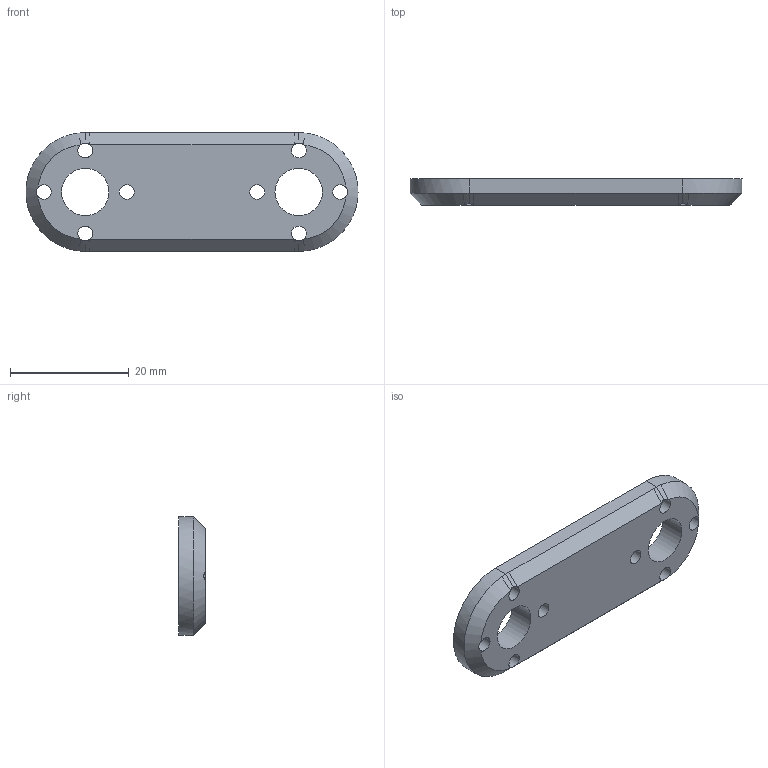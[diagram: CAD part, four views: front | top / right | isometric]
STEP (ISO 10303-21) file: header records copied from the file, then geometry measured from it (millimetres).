
FILE_DESCRIPTION(/* description */ (''),/* implementation_level */ '2;1');
FILE_NAME(/* name */ 'E:/云同步/我的坚果云/项目/SERVO DRIVER WITH ESP32/模型/H v3.step',/* time_stamp */ '2022-01-21T19:19:52+08:00',/* author */ (''),/* organization */ (''),/* preprocessor_version */ 'ST-DEVELOPER v18.1',/* originating_system */ 'Autodesk Translation Framework v10.10.0.1391',/* authorisation */ '');
FILE_SCHEMA (('AUTOMOTIVE_DESIGN { 1 0 10303 214 3 1 1 }'));
Length unit declared in the file: millimetre
Products named in the file (1): H
Bounding box: 56 x 4.5 x 20 mm (x, y, z)
Volume: 3763.5 mm3; surface area: 2738.9 mm2
Topology: 1 solids, 1 shells, 28 faces, 84 edges, 52 vertices
Faces by surface type: cylinder 12, bspline 8, plane 6, cone 2
Full cylindrical faces by diameter (mm): 2.5 x8, 8 x2
Entity records: 1215 total; most frequent: CARTESIAN_POINT 435, ORIENTED_EDGE 168, DIRECTION 140, EDGE_CURVE 84, AXIS2_PLACEMENT_3D 54, VERTEX_POINT 52, EDGE_LOOP 42, CIRCLE 33
